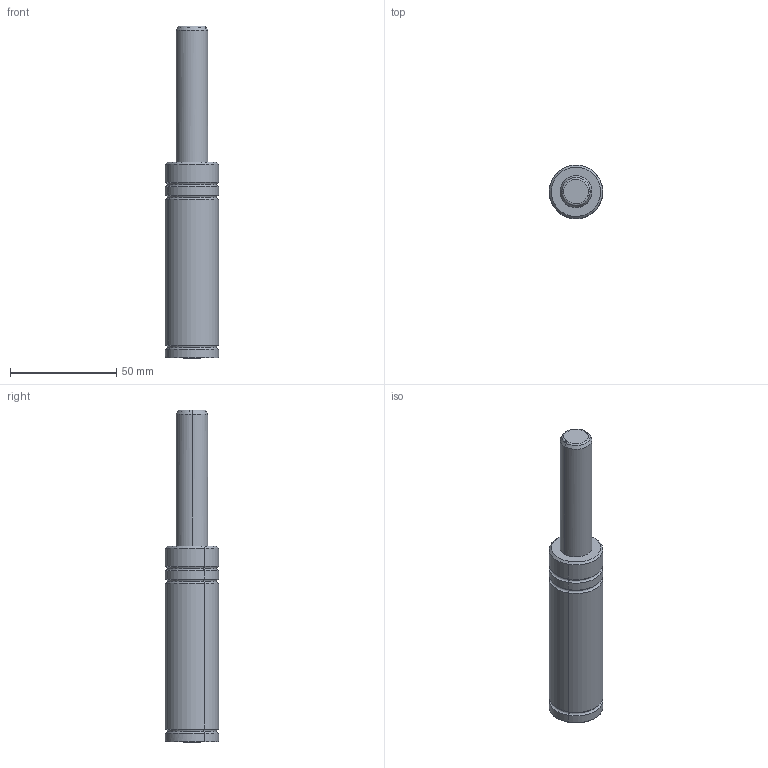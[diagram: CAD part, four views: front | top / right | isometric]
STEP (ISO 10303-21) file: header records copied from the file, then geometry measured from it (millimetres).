
FILE_DESCRIPTION(('CATIA V5 STEP Exchange'),'2;1');
FILE_NAME('W:\CATALOGO GENERAL 2018\FICHEROS CAD\001-MICRO\MICRO 25V\MICRO25Vx63.stp','2021-07-27T06:50:10+00:00',('none'),('none'),'CATIA Version 5 Release 17 (IN-10)','CATIA V5 STEP AP203','none');
FILE_SCHEMA(('CONFIG_CONTROL_DESIGN'));
Length unit declared in the file: millimetre
Products named in the file (1): MICRO25Vx63
Bounding box: 25.2 x 25.19 x 156 mm (x, y, z)
Volume: 56598.2 mm3; surface area: 11869.9 mm2
Topology: 2 solids, 2 shells, 42 faces, 83 edges, 46 vertices
Faces by surface type: torus 18, cylinder 12, cone 7, plane 5
Entity records: 1135 total; most frequent: CARTESIAN_POINT 282, ORIENTED_EDGE 166, DIRECTION 148, AXIS2_PLACEMENT_3D 94, EDGE_CURVE 83, CIRCLE 57, VERTEX_POINT 46, EDGE_LOOP 43
